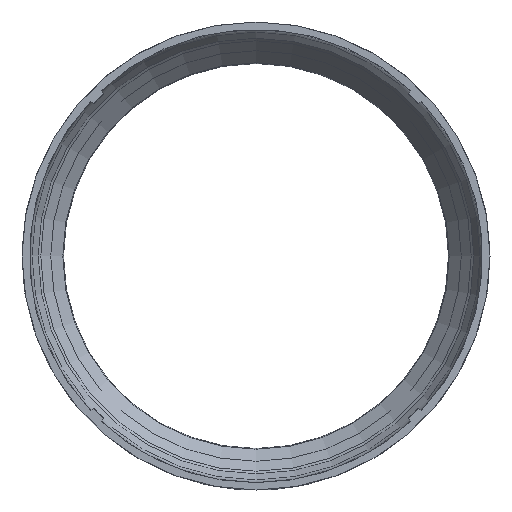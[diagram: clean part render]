
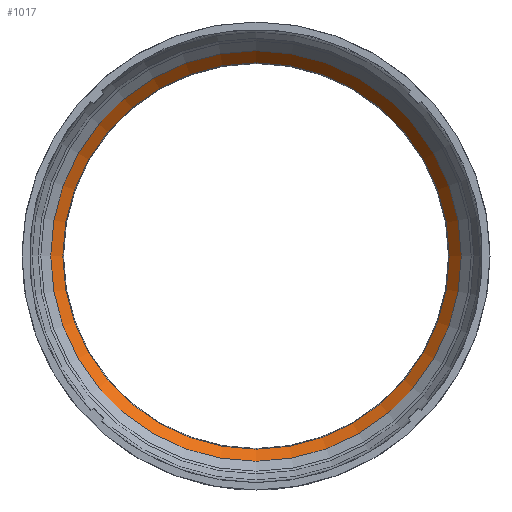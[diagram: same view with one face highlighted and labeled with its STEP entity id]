
A CAD part, front view. The second image highlights one B-rep face of the part: STEP entity #1017.
In plain terms, the highlighted conical face has half-angle 40 degrees and reference radius 69.395 mm.
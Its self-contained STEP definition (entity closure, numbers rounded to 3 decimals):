
#144=LINE('',#6652,#205);
#205=VECTOR('',#1380,69.395);
#213=CONICAL_SURFACE('',#1130,69.395,0.698);
#271=FACE_OUTER_BOUND('',#333,.T.);
#333=EDGE_LOOP('',(#903,#904,#905,#906,#907));
#388=CIRCLE('',#1129,69.31);
#389=CIRCLE('',#1131,65.234);
#390=CIRCLE('',#1132,65.234);
#487=VERTEX_POINT('',#6645);
#488=VERTEX_POINT('',#6648);
#489=VERTEX_POINT('',#6649);
#628=EDGE_CURVE('',#487,#487,#388,.T.);
#629=EDGE_CURVE('',#488,#489,#389,.T.);
#630=EDGE_CURVE('',#489,#488,#390,.T.);
#631=EDGE_CURVE('',#488,#487,#144,.T.);
#903=ORIENTED_EDGE('',*,*,#629,.T.);
#904=ORIENTED_EDGE('',*,*,#630,.T.);
#905=ORIENTED_EDGE('',*,*,#631,.T.);
#906=ORIENTED_EDGE('',*,*,#628,.F.);
#907=ORIENTED_EDGE('',*,*,#631,.F.);
#1017=ADVANCED_FACE('',(#271),#213,.F.);
#1129=AXIS2_PLACEMENT_3D('',#6646,#1372,#1373);
#1130=AXIS2_PLACEMENT_3D('',#6647,#1374,#1375);
#1131=AXIS2_PLACEMENT_3D('',#6650,#1376,#1377);
#1132=AXIS2_PLACEMENT_3D('',#6651,#1378,#1379);
#1372=DIRECTION('center_axis',(0.,1.,0.));
#1373=DIRECTION('ref_axis',(-1.,0.,0.));
#1374=DIRECTION('center_axis',(0.,-1.,0.));
#1375=DIRECTION('ref_axis',(-1.,0.,0.));
#1376=DIRECTION('center_axis',(0.,1.,0.));
#1377=DIRECTION('ref_axis',(-1.,0.,0.));
#1378=DIRECTION('center_axis',(0.,1.,0.));
#1379=DIRECTION('ref_axis',(-1.,0.,0.));
#1380=DIRECTION('',(0.643,-0.766,0.));
#6645=CARTESIAN_POINT('',(69.31,40.,0.));
#6646=CARTESIAN_POINT('Origin',(0.,40.,0.));
#6647=CARTESIAN_POINT('Origin',(0.,39.898,0.));
#6648=CARTESIAN_POINT('',(65.234,44.857,0.));
#6649=CARTESIAN_POINT('',(0.,44.857,65.234));
#6650=CARTESIAN_POINT('Origin',(0.,44.857,0.));
#6651=CARTESIAN_POINT('Origin',(0.,44.857,0.));
#6652=CARTESIAN_POINT('',(69.395,39.898,0.));
